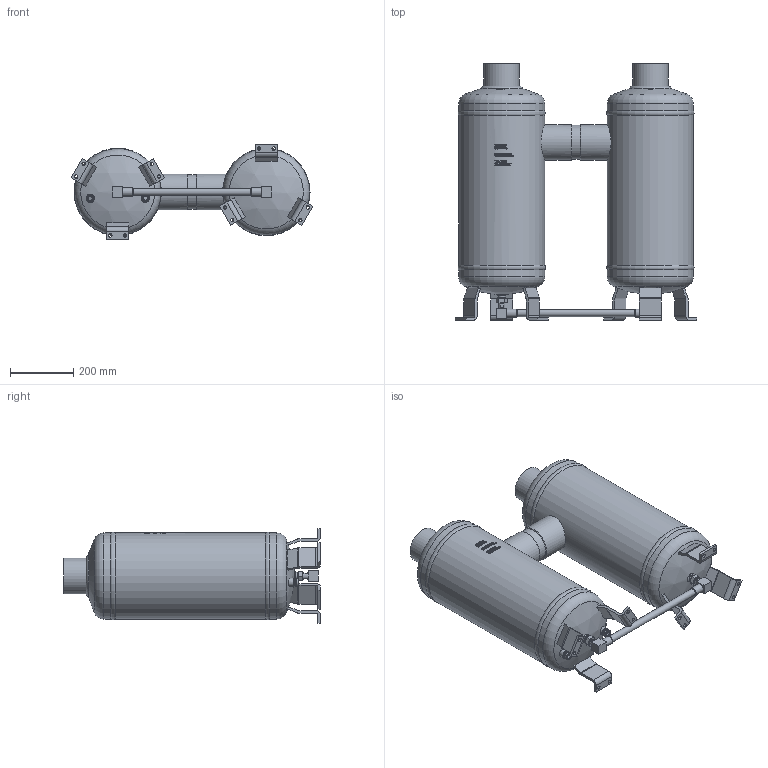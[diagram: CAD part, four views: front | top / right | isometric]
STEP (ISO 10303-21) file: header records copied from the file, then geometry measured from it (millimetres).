
FILE_DESCRIPTION(/* description */ (''),/* implementation_level */ '2;1');
FILE_NAME(/* name */ 'P:\FA\FA-104-64WT\FA-104-64WT.stp',/* time_stamp */ '2017-12-14T10:59:58+01:00',/* author */ ('neufeld'),/* organization */ (''),/* preprocessor_version */ 'ST-DEVELOPER v16.1',/* originating_system */ 'Autodesk Inventor 2016',/* authorisation */ '');
FILE_SCHEMA (('AUTOMOTIVE_DESIGN { 1 0 10303 214 3 1 1 }'));
Length unit declared in the file: millimetre
Products named in the file (1): FA-104-64WT_AG-Kunde
Bounding box: 765.81 x 813.39 x 300 mm (x, y, z)
Volume: 76622301 mm3; surface area: 1570677.3 mm2
Topology: 1 solids, 5 shells, 1525 faces, 4046 edges, 2682 vertices
Faces by surface type: plane 830, bspline 436, cylinder 197, cone 34, torus 16, sphere 12
Full cylindrical faces by diameter (mm): 10.5 x12, 13.3 x2, 15.1 x2, 15.75 x2, 15.87 x2, 16 x2, 18.5 x2, 20.1 x2, 20.2 x2, 22 x1, 22.5 x6, 23.6 x2, 25.2 x4, 26 x4, 104.8 x2, 108 x1, 112.7 x4, 273 x2, 273.2 x4
Entity records: 57106 total; most frequent: CARTESIAN_POINT 21432, ORIENTED_EDGE 7874, DIRECTION 6314, EDGE_CURVE 3935, VERTEX_POINT 2655, AXIS2_PLACEMENT_3D 2226, LINE 1862, VECTOR 1862
